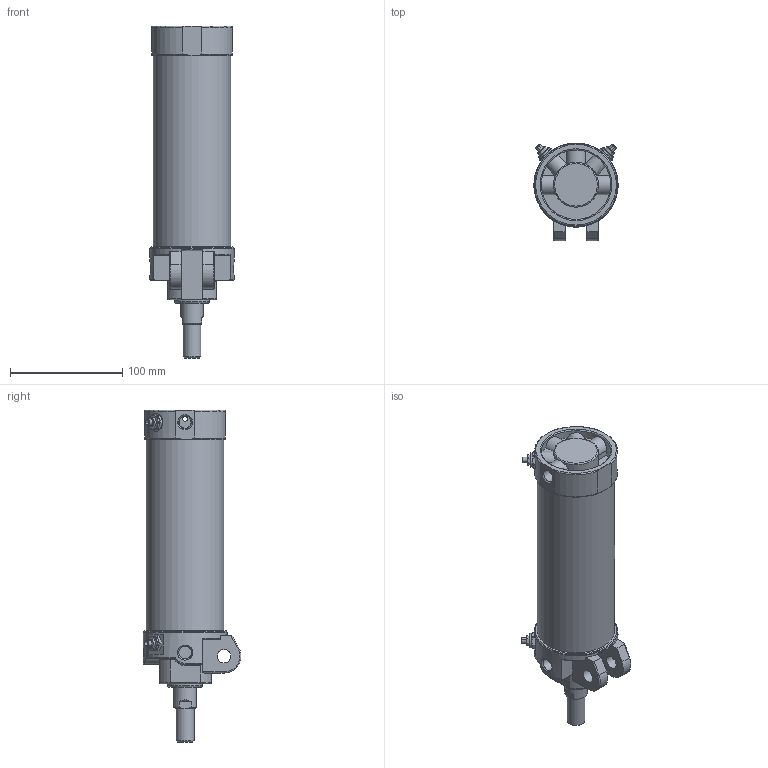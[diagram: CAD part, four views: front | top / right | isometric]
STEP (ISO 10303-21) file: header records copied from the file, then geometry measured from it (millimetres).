
FILE_DESCRIPTION((''),'2;1');
FILE_NAME('I:\3D電子目錄\氣缸\DCK\DCK\DCK-1B-63x125.stp','2008-02-26T15:19:07',('Administrator'),(''),'Autodesk Inventor 11','Autodesk Inventor 11','');
FILE_SCHEMA(('AUTOMOTIVE_DESIGN { 1 0 10303 214 1 1 1 1 }'));
Length unit declared in the file: millimetre
Products named in the file (6): DCK-1B-63; 緩衝針; 緩衝針-1; 緩衝針-201; 緩衝針-3
Assembly tree (8 placements, depth 3):
  DCK-1B-63
    DCK-1B-63
    緩衝針  x4
      緩衝針-1
      緩衝針-201
      緩衝針-3
Bounding box: 75 x 87.29 x 296 mm (x, y, z)
Volume: 349265.5 mm3; surface area: 146547.1 mm2
Topology: 16 solids, 16 shells, 588 faces, 1291 edges, 803 vertices
Faces by surface type: plane 217, cylinder 167, cone 131, torus 42, bspline 31
Full cylindrical faces by diameter (mm): 2 x1, 3 x2, 3.8 x2, 4 x6, 4.6 x4, 5 x8, 5.1 x4, 5.2 x12, 5.5 x4, 7 x1, 7.25 x1, 7.9 x4, 8 x2, 11.3 x3, 12 x2, 12.8 x4, 16 x2, 20 x1, 21 x1, 22 x2, 23 x1, 24.7 x1, 26 x1, 27 x1, 28 x1, 29 x1, 31 x1, 33 x1, 62 x1, 62.7 x1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
Entity records: 12345 total; most frequent: CARTESIAN_POINT 5236, DIRECTION 1435, ORIENTED_EDGE 1302, EDGE_CURVE 651, AXIS2_PLACEMENT_3D 626, EDGE_LOOP 507, VERTEX_POINT 468, FACE_OUTER_BOUND 339
